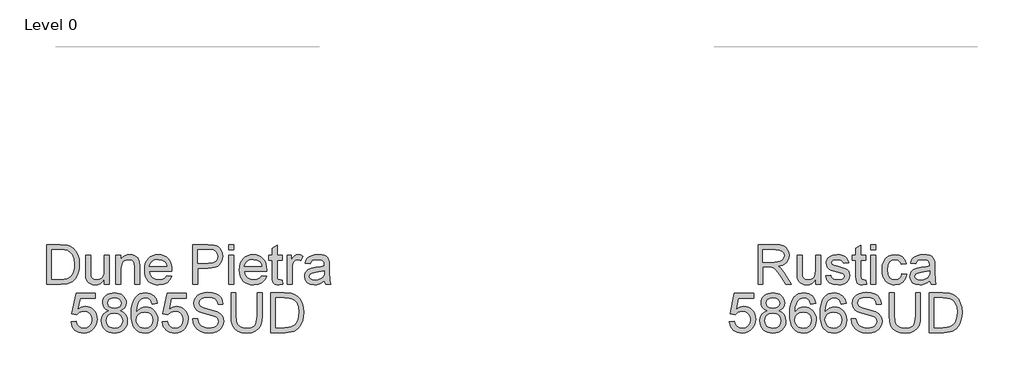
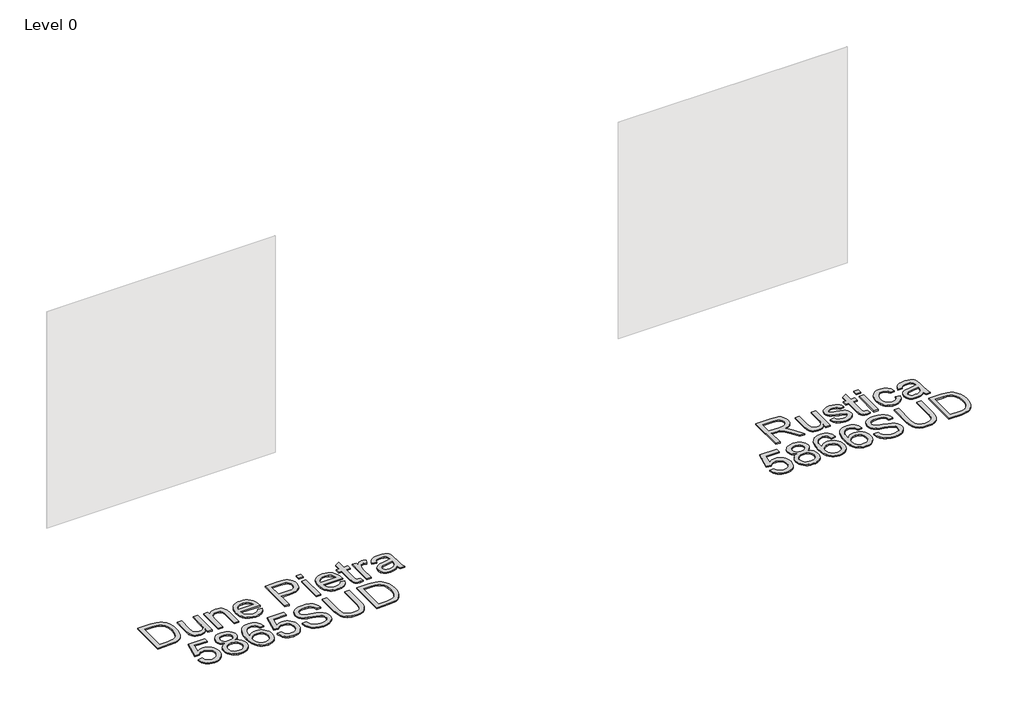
# One storey, part 21 of 29: 2 proxies.
"""IFC4 building model written with IfcOpenShell, lengths in millimetres."""

from ifc_helpers import new_model, si_unit, origin, origin_with_axes, place, context, project, spatial, polyline, outline, extrude, element, save

model = new_model("IFC4")

# Units and contexts
model_context = context("Model", 3, world=origin())
ifc_project = project(units=[si_unit("LENGTHUNIT", "METRE", prefix="MILLI")], contexts=[model_context])

# Site, building, storey
site = spatial("IfcSite", under=ifc_project)
building = spatial("IfcBuilding", under=site)
storey = spatial("IfcBuildingStorey", under=building, Name="Level 0", Elevation=0.0)

# Proxies
placement = place(None, origin())
element("IfcBuildingElementProxy", 1, Name="300mm Arial", ObjectType="300mm Arial", at=placement, inside=storey, context=model_context, shape_type="SweptSolid", body=[
    extrude(outline(polyline([(9883.034074, -7002.860494), (9883.034074, -6701.4915635), (10012.8964183, -6701.4915635), (10047.7992226, -6703.5241116), (10073.1922773, -6709.6217556), (10091.751924, -6720.8789447), (10106.1545041, -6738.3901276), (10115.3975392, -6760.1043624), (10118.4785509, -6783.9707069), (10113.3741883, -6813.6587839), (10098.0611002, -6838.2700893), (10086.461321, -6848.2994722), (10072.0794343, -6856.3147012), (10034.969338, -6866.3026974), (10056.3800702, -6882.4159288), (10086.9142758, -6921.1906911), (10137.1669563, -7002.860494), (10093.3889989, -7002.860494), (10054.1727782, -6940.3941312), (10025.8458646, -6899.0441949), (10005.9434486, -6879.509661), (9988.0275955, -6872.3359621), (9966.1754049, -6871.0115869), (9920.7051903, -6871.0115869), (9920.7051903, -7002.860494), (9883.034074, -7002.860494)]), holes=[polyline([(9920.7051903, -6833.3404706), (10005.0237436, -6833.3404706), (10029.239576, -6832.0068984), (10048.0291489, -6828.0061817), (10062.1742116, -6821.0716061), (10072.4565133, -6810.9364571), (10078.7197043, -6798.6767896), (10080.8074346, -6785.3686584), (10076.825112, -6766.9929528), (10064.8781442, -6752.1857025), (10044.3227378, -6742.4184355), (10014.5150991, -6739.1626798), (9920.7051903, -6739.1626798), (9920.7051903, -6833.3404706)])]), origin_with_axes(), (0.0, 0.0, 1.0), 10.0),
    extrude(outline(polyline([(10320.9608011, -7002.860494), (10320.9608011, -6964.8214957), (10307.3307732, -6983.5236966), (10291.4566651, -6996.8824116), (10273.3384768, -7004.8976405), (10252.9762084, -7007.5693835), (10234.6280939, -7005.6931853), (10217.5491722, -7000.0645908), (10203.2201685, -6991.6033049), (10193.1218078, -6981.2290327), (10181.9014069, -6953.4907302), (10179.6941149, -6918.4683643), (10179.6941149, -6781.5426857), (10217.3652312, -6781.5426857), (10217.3652312, -6900.7364521), (10219.6460996, -6939.1433324), (10225.1367384, -6951.9548229), (10234.5453204, -6961.6944987), (10247.2464463, -6967.8473251), (10262.6147167, -6969.8982672), (10278.8659038, -6967.8013398), (10294.0686272, -6961.5105577), (10306.6042062, -6951.605335), (10314.85396, -6938.6650858), (10319.4340908, -6920.9423707), (10320.9608011, -6896.6897502), (10320.9608011, -6781.5426857), (10358.6319174, -6781.5426857), (10358.6319174, -7002.860494), (10320.9608011, -7002.860494)])), origin_with_axes(), (0.0, 0.0, 1.0), 10.0),
    extrude(outline(polyline([(10396.3030337, -6936.9360404), (10433.97415, -6932.2271509), (10439.9154442, -6948.3403823), (10451.4117566, -6960.1861825), (10468.5366635, -6967.470246), (10491.3637413, -6969.8982672), (10513.9149076, -6967.6725811), (10529.7706215, -6960.9955229), (10539.1516124, -6951.3202265), (10542.2786094, -6940.0998256), (10539.1332183, -6930.4981055), (10529.6970452, -6923.1772538), (10490.9222829, -6912.4350996), (10434.1948792, -6894.0042116), (10419.8382843, -6884.7427824), (10409.4364209, -6872.4831149), (10403.1180477, -6858.0069584), (10401.0119232, -6842.0960621), (10402.7041804, -6827.5003439), (10407.7809519, -6814.0266659), (10415.7823853, -6802.2084568), (10426.2486281, -6792.5791455), (10450.197746, -6781.4323211), (10482.6081498, -6776.8337961), (10507.1274847, -6778.6824032), (10528.4462464, -6784.2282242), (10545.5895473, -6792.9286334), (10557.5825004, -6804.2410048), (10565.5287515, -6819.0022698), (10570.5319466, -6838.0493601), (10532.8608303, -6842.7582497), (10528.1059555, -6830.9032524), (10518.6973735, -6821.972917), (10504.5431137, -6816.3719136), (10485.5512057, -6814.5049125), (10463.9197444, -6816.2891401), (10449.4987702, -6821.6418232), (10441.3869722, -6829.3673451), (10438.6830395, -6838.2700893), (10443.1711999, -6849.2329728), (10457.2242921, -6857.5471059), (10489.6714841, -6865.5669334), (10544.964148, -6883.2988455), (10559.5690632, -6891.7785255), (10570.6423112, -6903.3852025), (10577.6228721, -6918.1556646), (10579.9497257, -6936.1267001), (10577.2182019, -6954.7047408), (10569.0236304, -6972.1791356), (10555.6787111, -6987.1795239), (10537.4961434, -6998.3355454), (10515.5335883, -7005.260924), (10490.8487065, -7007.5693835), (10452.8648905, -7003.1180114), (10425.1449821, -6989.763895), (10406.6405178, -6967.654187), (10396.3030337, -6936.9360404)])), origin_with_axes(), (0.0, 0.0, 1.0), 10.0),
    extrude(outline(polyline([(10702.3808537, -6971.4433716), (10707.0897432, -7003.96414), (10678.9099824, -7007.5693835), (10660.8285823, -7006.005885), (10647.3457072, -7001.3153896), (10637.8175635, -6994.0865084), (10631.6003578, -6984.9078526), (10628.1790553, -6969.1441091), (10627.0386211, -6942.1599648), (10627.0386211, -6819.213802), (10598.7852838, -6819.213802), (10598.7852838, -6781.5426857), (10627.0386211, -6781.5426857), (10627.0386211, -6727.758338), (10664.7097374, -6705.6118419), (10664.7097374, -6781.5426857), (10702.3808537, -6781.5426857), (10702.3808537, -6819.213802), (10664.7097374, -6819.213802), (10664.7097374, -6941.0563188), (10666.6963002, -6960.4804881), (10673.1342351, -6967.3598814), (10685.9733167, -6969.8982672), (10702.3808537, -6971.4433716)])), origin_with_axes(), (0.0, 0.0, 1.0), 10.0),
    extrude(outline(polyline([(10740.05197, -6739.1626798), (10740.05197, -6701.4915635), (10777.7230863, -6701.4915635), (10777.7230863, -6739.1626798), (10740.05197, -6739.1626798)])), origin_with_axes(), (0.0, 0.0, 1.0), 10.0),
    extrude(outline(polyline([(10740.05197, -7002.860494), (10740.05197, -6781.5426857), (10777.7230863, -6781.5426857), (10777.7230863, -7002.860494), (10740.05197, -7002.860494)])), origin_with_axes(), (0.0, 0.0, 1.0), 10.0),
    extrude(outline(polyline([(10975.4964469, -6922.8093718), (11013.1675632, -6927.5182614), (11002.6645322, -6961.0231141), (10982.9276632, -6986.3425924), (10955.8147602, -7002.2626857), (10923.1836272, -7007.5693835), (10902.0557044, -7005.7184772), (10883.1120809, -7000.1657584), (10866.3527567, -6990.9112269), (10851.7777319, -6977.9548829), (10839.9802162, -6961.5404481), (10831.5534192, -6941.9116444), (10826.4973411, -6919.0684718), (10824.8119817, -6893.0109302), (10827.6906583, -6859.4876834), (10836.3266881, -6830.4342028), (10850.8580269, -6806.9725286), (10871.4226305, -6790.2247008), (10896.0247389, -6780.1815223), (10922.6685924, -6776.8337961), (10954.499582, -6781.4323211), (10979.947819, -6795.2278959), (10998.2039631, -6817.4847566), (11008.4586737, -6847.4671392), (10970.7875574, -6852.1760288), (10963.9541493, -6835.7409006), (10953.3131626, -6823.9594797), (10939.4532084, -6816.8685543), (10922.962898, -6814.5049125), (10898.618307, -6819.1586197), (10879.2953052, -6833.1197414), (10866.6861498, -6857.1424357), (10862.483098, -6891.9808606), (10866.5941793, -6927.2883351), (10878.9274232, -6951.3938029), (10897.9009371, -6965.2721511), (10921.9328284, -6969.8982672), (10941.4397712, -6967.0103936), (10957.4334409, -6958.3467726), (10969.067709, -6943.6866751), (10975.4964469, -6922.8093718)])), origin_with_axes(), (0.0, 0.0, 1.0), 10.0),
    extrude(outline(polyline([(11187.3964761, -6974.6071568), (11169.3978495, -6990.0398064), (11150.865794, -7000.1381672), (11131.3772453, -7005.7115794), (11110.5091391, -7007.5693835), (11079.0276374, -7003.0996173), (11055.8050865, -6989.6903186), (11041.4852798, -6969.3280501), (11036.7120109, -6943.9993748), (11038.5146327, -6928.3827841), (11043.922498, -6914.2009331), (11052.2642222, -6902.0608273), (11062.8684208, -6892.5694718), (11089.2455598, -6880.2086368), (11121.8399046, -6874.5432541), (11160.3571495, -6868.5835657), (11187.1757469, -6861.5938078), (11187.3964761, -6853.2060983), (11184.8029081, -6836.3938912), (11177.0222039, -6825.3942195), (11159.6213855, -6817.2272392), (11135.377962, -6814.5049125), (11112.9371603, -6816.3167313), (11097.2653873, -6821.7521878), (11086.5784153, -6831.8045633), (11079.0920167, -6847.4671392), (11041.4209004, -6842.7582497), (11047.9600029, -6822.156858), (11057.7180728, -6805.9700502), (11071.6056181, -6793.590821), (11090.5331468, -6784.4121652), (11113.6821213, -6778.7283884), (11140.2340043, -6776.8337961), (11165.7006355, -6778.5076592), (11185.8881599, -6783.5292485), (11201.1092775, -6791.0800264), (11211.6766878, -6800.3414556), (11218.6848398, -6811.7917827), (11223.2281825, -6825.9092543), (11225.0675924, -6858.8714811), (11225.0675924, -6905.7396473), (11226.9805788, -6971.1858542), (11234.4853715, -7002.860494), (11196.8142552, -7002.860494), (11187.3964761, -6974.6071568)]), holes=[polyline([(11187.3964761, -6899.2649241), (11126.6223705, -6910.8164188), (11094.2119667, -6916.9232599), (11079.5334751, -6926.8560738), (11074.3831272, -6941.3506244), (11077.1882274, -6952.5526311), (11085.6035281, -6961.7312869), (11099.4450881, -6967.8565221), (11118.5289666, -6969.8982672), (11138.7624764, -6967.64499), (11156.6415413, -6960.8851583), (11171.1360919, -6950.9247533), (11181.2160586, -6939.069756), (11185.6858248, -6926.8560738), (11187.1757469, -6909.933502), (11187.3964761, -6899.2649241)])]), origin_with_axes(), (0.0, 0.0, 1.0), 10.0),
    extrude(outline(polyline([(9666.4251553, -7288.7338254), (9704.0962716, -7284.0249358), (9711.0124531, -7306.6404815), (9723.0789825, -7322.8364863), (9740.2406776, -7332.5761621), (9762.442356, -7335.8227207), (9789.4448945, -7331.3069693), (9809.6784042, -7317.7597148), (9822.3151507, -7296.7444558), (9826.5273996, -7269.8246908), (9822.5818652, -7244.4776213), (9810.745262, -7225.0902402), (9790.9256195, -7212.7845875), (9763.0309672, -7208.6827032), (9744.7564291, -7210.3197781), (9729.9583758, -7215.2310027), (9708.8051611, -7232.2271509), (9671.1340448, -7227.5182614), (9704.0962716, -7072.1249066), (9850.0718473, -7072.1249066), (9850.0718473, -7109.7960229), (9734.5569008, -7109.7960229), (9718.4436694, -7192.790201), (9745.3542373, -7176.4562404), (9773.5523923, -7171.0115869), (9791.8982075, -7172.6992456), (9808.7495022, -7177.7622215), (9824.1062762, -7186.2005148), (9837.9685296, -7198.0141254), (9849.4441486, -7212.4810848), (9857.6410193, -7228.8794248), (9862.5591417, -7247.2091452), (9864.1985159, -7267.470246), (9858.2940099, -7305.1413624), (9850.9133773, -7321.9351754), (9840.5804918, -7337.3678251), (9824.9271129, -7353.1729553), (9806.6617718, -7364.4623341), (9785.7844686, -7371.2359613), (9762.2952032, -7373.4938371), (9725.2954715, -7367.6904986), (9709.6168008, -7360.4363255), (9695.8189267, -7350.2804832), (9684.3387092, -7337.7288093), (9675.6130081, -7323.2871418), (9666.4251553, -7288.7338254)])), origin_with_axes(), (0.0, 0.0, 1.0), 10.0),
    extrude(outline(polyline([(9952.0487363, -7202.7965913), (9931.8796059, -7192.8637774), (9917.7253462, -7179.3992964), (9909.3652278, -7162.6790597), (9906.5785217, -7142.9789789), (9908.0960349, -7127.6153071), (9912.6485746, -7113.5300252), (9920.2361408, -7100.7231332), (9930.8587334, -7089.1946312), (9944.0059162, -7079.6664875), (9959.1672529, -7072.8606706), (9995.5323882, -7067.4160171), (10032.1182526, -7072.9894293), (10047.4451362, -7079.9561946), (10060.7946541, -7089.709666), (10071.6103848, -7101.4634957), (10079.3359067, -7114.4313361), (10083.9712198, -7128.613187), (10085.5163242, -7144.0090485), (10082.7664063, -7163.0745329), (10074.5166525, -7179.509661), (10060.6750924, -7192.8913686), (10041.1497556, -7202.7965913), (10064.3355183, -7214.7435591), (10081.2121048, -7232.3375155), (10091.5036036, -7254.732332), (10094.9341033, -7281.0818799), (10093.232649, -7299.8714528), (10088.1282863, -7317.0975272), (10079.6210152, -7332.7601031), (10067.7108356, -7346.8591806), (10053.0231469, -7358.5118428), (10036.1833486, -7366.8351729), (10017.1914406, -7371.829171), (9996.0474229, -7373.4938371), (9974.9034053, -7371.8222732), (9955.9114973, -7366.8075818), (9939.0716989, -7358.4497627), (9924.3840103, -7346.748816), (9912.4738307, -7332.5508703), (9903.9665596, -7316.7020541), (9898.8621969, -7299.2023674), (9897.1607426, -7280.0518103), (9900.729198, -7252.6813898), (9911.4345641, -7230.1670117), (9928.7250178, -7213.2812282), (9952.0487363, -7202.7965913)]), holes=[polyline([(9944.249638, -7144.0826249), (9947.5881671, -7160.52695), (9957.6037545, -7173.6603373), (9974.0020944, -7182.268776), (9996.4888813, -7185.1382555), (10018.4514365, -7182.2871701), (10034.601456, -7173.7339137), (10044.5342699, -7161.0419848), (10047.8452079, -7145.774882), (10044.4239053, -7129.9283651), (10034.1599976, -7116.822569), (10017.7892489, -7108.0209923), (9996.0474229, -7105.0871334), (9974.1676413, -7107.9566129), (9957.8244836, -7116.5650516), (9947.6433494, -7129.1834041), (9944.249638, -7144.0826249)]), polyline([(9934.8318589, -7278.7274351), (9941.1226411, -7307.0911369), (9949.8322473, -7319.2588339), (9963.3795018, -7328.317928), (9979.6030978, -7333.9465226), (9996.3417285, -7335.8227207), (10021.9831036, -7331.8771864), (10041.223332, -7320.0405832), (10053.2530732, -7302.1155329), (10057.2629869, -7279.9046575), (10053.1243145, -7257.316703), (10040.7082972, -7238.9961796), (10021.0266104, -7226.8560738), (9995.0909298, -7222.8093718), (9969.8082396, -7226.8008915), (9950.7611493, -7238.7754504), (9938.8141815, -7256.7464859), (9934.8318589, -7278.7274351)])]), origin_with_axes(), (0.0, 0.0, 1.0), 10.0),
    extrude(outline(polyline([(10320.9608011, -7147.4671392), (10283.2896848, -7152.1760288), (10277.2196319, -7133.5060175), (10269.0158634, -7120.7589064), (10251.9277447, -7109.0050766), (10231.2711707, -7105.0871334), (10213.7599877, -7107.3680017), (10197.2788743, -7114.2106069), (10183.1246145, -7128.622384), (10171.5639228, -7148.4604206), (10163.7556275, -7176.5206198), (10160.8585568, -7215.5988847), (10175.9693097, -7197.9681401), (10194.078301, -7185.5429257), (10214.1738549, -7178.1760888), (10235.2442962, -7175.7204764), (10253.3440904, -7177.3989381), (10270.045933, -7182.4343229), (10285.349824, -7190.8266309), (10299.2557634, -7202.5758621), (10310.8118565, -7216.9830407), (10319.0662088, -7233.349191), (10324.0188202, -7251.6743129), (10325.6696906, -7271.9584064), (10322.5610878, -7298.9333537), (10313.2352792, -7323.9401323), (10298.4648171, -7345.1485293), (10279.0222536, -7360.7283318), (10255.7905056, -7370.3024607), (10229.6524899, -7373.4938371), (10207.1955933, -7371.3785156), (10186.9137991, -7365.0325512), (10168.8071071, -7354.4559438), (10152.8755175, -7339.6486935), (10139.8869838, -7319.9854009), (10130.6094597, -7294.8406665), (10125.0429453, -7264.2144904), (10123.1874405, -7228.1068726), (10125.2475797, -7187.6260575), (10131.4279972, -7153.0773396), (10141.728693, -7124.4607189), (10156.1496672, -7101.7761954), (10171.7800535, -7086.7436174), (10189.9028403, -7076.0060617), (10210.5180276, -7069.5635282), (10233.6256154, -7067.4160171), (10266.6798127, -7072.7319119), (10293.1489223, -7088.6795964), (10311.6901748, -7114.0082718), (10320.9608011, -7147.4671392)]), holes=[polyline([(10160.8585568, -7271.3697952), (10163.0382576, -7288.0624407), (10169.5773601, -7304.0009282), (10179.7309031, -7317.7045325), (10192.7539258, -7327.6925287), (10208.471684, -7333.7901727), (10226.7094339, -7335.8227207), (10251.5690597, -7331.6104719), (10271.1127907, -7318.9737254), (10283.7771284, -7299.1080976), (10287.9985743, -7273.2092052), (10283.8323107, -7248.3495793), (10271.3335199, -7229.3944595), (10251.4586951, -7217.3923095), (10225.1643295, -7213.3915928), (10200.3414919, -7217.3923095), (10179.5837503, -7229.3944595), (10165.5398552, -7247.8897269), (10160.8585568, -7271.3697952)])]), origin_with_axes(), (0.0, 0.0, 1.0), 10.0),
    extrude(outline(polyline([(10551.6963885, -7147.4671392), (10514.0252722, -7152.1760288), (10507.9552192, -7133.5060175), (10499.7514507, -7120.7589064), (10482.6633321, -7109.0050766), (10462.006758, -7105.0871334), (10444.4955751, -7107.3680017), (10428.0144617, -7114.2106069), (10413.8602019, -7128.622384), (10402.2995102, -7148.4604206), (10394.4912149, -7176.5206198), (10391.5941442, -7215.5988847), (10406.7048971, -7197.9681401), (10424.8138883, -7185.5429257), (10444.9094423, -7178.1760888), (10465.9798836, -7175.7204764), (10484.0796777, -7177.3989381), (10500.7815203, -7182.4343229), (10516.0854113, -7190.8266309), (10529.9913507, -7202.5758621), (10541.5474439, -7216.9830407), (10549.8017962, -7233.349191), (10554.7544075, -7251.6743129), (10556.405278, -7271.9584064), (10553.2966751, -7298.9333537), (10543.9708666, -7323.9401323), (10529.2004045, -7345.1485293), (10509.757841, -7360.7283318), (10486.526093, -7370.3024607), (10460.3880773, -7373.4938371), (10437.9311807, -7371.3785156), (10417.6493865, -7365.0325512), (10399.5426945, -7354.4559438), (10383.6111049, -7339.6486935), (10370.6225712, -7319.9854009), (10361.3450471, -7294.8406665), (10355.7785327, -7264.2144904), (10353.9230279, -7228.1068726), (10355.983167, -7187.6260575), (10362.1635845, -7153.0773396), (10372.4642804, -7124.4607189), (10386.8852546, -7101.7761954), (10402.5156409, -7086.7436174), (10420.6384277, -7076.0060617), (10441.253615, -7069.5635282), (10464.3612028, -7067.4160171), (10497.4154001, -7072.7319119), (10523.8845096, -7088.6795964), (10542.4257622, -7114.0082718), (10551.6963885, -7147.4671392)]), holes=[polyline([(10391.5941442, -7271.3697952), (10393.773845, -7288.0624407), (10400.3129474, -7304.0009282), (10410.4664905, -7317.7045325), (10423.4895131, -7327.6925287), (10439.2072714, -7333.7901727), (10457.4450213, -7335.8227207), (10482.3046471, -7331.6104719), (10501.8483781, -7318.9737254), (10514.5127158, -7299.1080976), (10518.7341617, -7273.2092052), (10514.5678981, -7248.3495793), (10502.0691073, -7229.3944595), (10482.1942825, -7217.3923095), (10455.8999169, -7213.3915928), (10431.0770793, -7217.3923095), (10410.3193377, -7229.3944595), (10396.2754425, -7247.8897269), (10391.5941442, -7271.3697952)])]), origin_with_axes(), (0.0, 0.0, 1.0), 10.0),
    extrude(outline(polyline([(10589.3675048, -7265.1893777), (10627.0386211, -7265.1893777), (10631.3612345, -7286.0942721), (10639.1787269, -7302.8972822), (10651.3740151, -7316.2330045), (10668.8300157, -7326.7360355), (10690.1671714, -7333.5510494), (10714.0059247, -7335.8227207), (10734.9935926, -7334.1028724), (10753.3692982, -7328.9433274), (10768.259322, -7320.7763471), (10778.7899441, -7310.0341929), (10785.0531351, -7297.700949), (10787.1408654, -7284.7606998), (10785.5773669, -7272.1515444), (10780.8868715, -7261.2530403), (10771.3587278, -7251.9548229), (10755.2822846, -7244.1465276), (10700.4310791, -7229.7623415), (10664.4246288, -7220.2433949), (10641.3860189, -7211.1843008), (10622.6332342, -7198.510766), (10609.3434971, -7183.1516928), (10601.4248372, -7165.4381747), (10598.7852838, -7145.7013056), (10602.0502366, -7123.637583), (10611.8450947, -7103.0637824), (10627.9123408, -7085.6261758), (10649.9944576, -7072.9710352), (10676.5003553, -7065.2731044), (10705.8389444, -7062.7071275), (10737.6239488, -7065.3926661), (10765.4358277, -7073.4492818), (10788.2812996, -7086.7114277), (10805.1670831, -7105.013557), (10815.8540551, -7127.2152354), (10820.1030921, -7152.1760288), (10782.4319758, -7152.1760288), (10775.5157943, -7129.6984389), (10761.0948201, -7113.4748429), (10738.5620479, -7103.6523936), (10707.3104724, -7100.3782438), (10675.3231329, -7103.6156054), (10653.3789719, -7113.3276901), (10640.6870431, -7127.6199056), (10636.4564002, -7144.5976597), (10639.4546384, -7159.0738162), (10648.4493532, -7170.7172813), (10669.7129325, -7181.1283418), (10709.9592228, -7191.7601314), (10751.4931, -7201.8584922), (10776.6194403, -7210.669266), (10798.0945518, -7224.3360821), (10813.076546, -7241.2034716), (10821.8781228, -7261.0874934), (10824.8119817, -7283.8042066), (10821.4366644, -7307.0267576), (10811.3107125, -7328.869751), (10794.8479932, -7347.668521), (10772.4623738, -7361.7584014), (10745.5426088, -7370.5599781), (10715.4774527, -7373.4938371), (10678.5696915, -7370.3300519), (10648.1918358, -7360.8386964), (10623.9943976, -7344.9829824), (10605.627889, -7322.7261217), (10593.837271, -7295.6132187), (10589.3675048, -7265.1893777)])), origin_with_axes(), (0.0, 0.0, 1.0), 10.0),
    extrude(outline(polyline([(11079.0920167, -7067.4160171), (11116.7631331, -7067.4160171), (11116.7631331, -7241.277048), (11114.2063532, -7281.9923878), (11106.5360136, -7313.3451308), (11092.2070099, -7337.533372), (11069.6742377, -7356.7552063), (11038.8825147, -7369.3091794), (10999.7766586, -7373.4938371), (10961.5261281, -7369.8518053), (10930.9459373, -7358.92571), (10908.026889, -7341.0926303), (10892.7597862, -7316.7296452), (10884.1789387, -7284.052527), (10881.3186561, -7241.277048), (10881.3186561, -7067.4160171), (10918.9897724, -7067.4160171), (10918.9897724, -7239.9526728), (10920.8475765, -7273.8070134), (10926.4209887, -7297.3790523), (10936.5193495, -7313.7038158), (10951.9519992, -7325.8163305), (10972.0751444, -7333.3211232), (10996.2449914, -7335.8227207), (11034.5599012, -7330.8747079), (11048.9027005, -7324.6896919), (11060.0357294, -7316.0306694), (11068.3728551, -7303.8537754), (11074.3279449, -7287.1151446), (11079.0920167, -7239.9526728), (11079.0920167, -7067.4160171)])), origin_with_axes(), (0.0, 0.0, 1.0), 10.0),
    extrude(outline(polyline([(11182.6875866, -7368.7849475), (11182.6875866, -7067.4160171), (11286.6510384, -7067.4160171), (11340.4353861, -7071.7570246), (11364.4580804, -7080.12634), (11384.7283783, -7093.3149095), (11405.5688934, -7116.270746), (11420.4129319, -7144.8183889), (11429.2972821, -7178.406015), (11432.2587321, -7216.4818015), (11430.2537752, -7248.8278259), (11424.2389046, -7277.2926953), (11415.0786429, -7301.5269217), (11403.6375129, -7321.1810173), (11390.4673375, -7336.6964405), (11376.1199397, -7348.5146496), (11359.6480233, -7357.2794381), (11340.1042923, -7363.6345996), (11291.6542336, -7368.7849475), (11182.6875866, -7368.7849475)]), holes=[polyline([(11220.3587029, -7331.1138312), (11287.0189204, -7331.1138312), (11314.591676, -7329.7526678), (11335.5057674, -7325.6691777), (11351.287905, -7319.1024841), (11363.464799, -7310.2917103), (11376.552201, -7293.9853408), (11386.3838473, -7272.8781114), (11392.5366737, -7246.8780514), (11394.5876158, -7215.8931903), (11390.568505, -7174.8375597), (11378.5111726, -7144.5240833), (11360.696487, -7123.7019623), (11339.4053165, -7111.1203981), (11317.737067, -7106.5954496), (11285.9888508, -7105.0871334), (11220.3587029, -7105.0871334), (11220.3587029, -7331.1138312)])]), origin_with_axes(), (0.0, 0.0, 1.0), 10.0),
])
element("IfcBuildingElementProxy", 2, Name="300mm Arial", ObjectType="300mm Arial", at=placement, inside=storey, context=model_context, shape_type="SweptSolid", body=[
    extrude(outline(polyline([(4480.4240185, -7002.860494), (4480.4240185, -6701.4915635), (4584.3874703, -6701.4915635), (4638.171818, -6705.8325711), (4662.1945123, -6714.2018865), (4682.4648103, -6727.390456), (4703.3053253, -6750.3462925), (4718.1493638, -6778.8939353), (4727.033714, -6812.4815615), (4729.995164, -6850.557348), (4727.9902072, -6882.9033724), (4721.9753365, -6911.3682418), (4712.8150749, -6935.6024682), (4701.3739448, -6955.2565638), (4688.2037694, -6970.771987), (4673.8563716, -6982.590196), (4657.3844552, -6991.3549846), (4637.8407242, -6997.710146), (4589.3906655, -7002.860494), (4480.4240185, -7002.860494)]), holes=[polyline([(4518.0951348, -6965.1893777), (4584.7553523, -6965.1893777), (4612.3281079, -6963.8282143), (4633.2421993, -6959.7447241), (4649.0243369, -6953.1780305), (4661.2012309, -6944.3672567), (4674.2886329, -6928.0608873), (4684.1202792, -6906.9536578), (4690.2731056, -6880.9535978), (4692.3240477, -6849.9687368), (4688.3049369, -6808.9131061), (4676.2476045, -6778.5996297), (4658.4329189, -6757.7775088), (4637.1417485, -6745.1959446), (4615.4734989, -6740.670996), (4583.7252828, -6739.1626798), (4518.0951348, -6739.1626798), (4518.0951348, -6965.1893777)])]), origin_with_axes(), (0.0, 0.0, 1.0), 10.0),
    extrude(outline(polyline([(4918.3507456, -7002.860494), (4918.3507456, -6964.8214957), (4904.7207176, -6983.5236966), (4888.8466096, -6996.8824116), (4870.7284213, -7004.8976405), (4850.3661529, -7007.5693835), (4832.0180383, -7005.6931853), (4814.9391167, -7000.0645908), (4800.610113, -6991.6033049), (4790.5117522, -6981.2290327), (4779.2913514, -6953.4907302), (4777.0840594, -6918.4683643), (4777.0840594, -6781.5426857), (4814.7551757, -6781.5426857), (4814.7551757, -6900.7364521), (4817.0360441, -6939.1433324), (4822.5266829, -6951.9548229), (4831.9352649, -6961.6944987), (4844.6363908, -6967.8473251), (4860.0046611, -6969.8982672), (4876.2558483, -6967.8013398), (4891.4585717, -6961.5105577), (4903.9941507, -6951.605335), (4912.2439044, -6938.6650858), (4916.8240353, -6920.9423707), (4918.3507456, -6896.6897502), (4918.3507456, -6781.5426857), (4956.0218619, -6781.5426857), (4956.0218619, -7002.860494), (4918.3507456, -7002.860494)])), origin_with_axes(), (0.0, 0.0, 1.0), 10.0),
    extrude(outline(polyline([(5007.8196468, -7002.860494), (5007.8196468, -6781.5426857), (5045.4907631, -6781.5426857), (5045.4907631, -6812.4447733), (5058.5781651, -6796.8649708), (5074.2959233, -6785.7365404), (5092.6440378, -6779.0594822), (5113.6225086, -6776.8337961), (5132.1913523, -6778.6272209), (5149.1966975, -6784.0074951), (5163.3785485, -6792.303234), (5173.4769092, -6802.8430532), (5184.7708865, -6830.5445674), (5186.7574492, -6866.964885), (5186.7574492, -7002.860494), (5149.0863329, -7002.860494), (5149.0863329, -6872.0416565), (5144.7453254, -6838.7115477), (5138.7396518, -6828.7879309), (5129.4046462, -6821.0900002), (5117.4392843, -6816.1511844), (5103.5425419, -6814.5049125), (5081.4788193, -6818.2021265), (5062.6708523, -6829.2937687), (5055.1545633, -6838.3482643), (5049.7857854, -6850.7228949), (5045.4907631, -6885.4325611), (5045.4907631, -7002.860494), (5007.8196468, -7002.860494)])), origin_with_axes(), (0.0, 0.0, 1.0), 10.0),
    extrude(outline(polyline([(5393.5071305, -6936.9360404), (5430.4424829, -6941.64493), (5417.1343517, -6969.4752029), (5395.8983635, -6990.2789297), (5367.2127649, -7003.2467701), (5331.5558025, -7007.5693835), (5308.1815003, -7005.7046817), (5287.3547808, -7000.1105761), (5269.0756442, -6990.7870668), (5253.3440904, -6977.7341537), (5240.6935483, -6961.3151204), (5231.6574468, -6941.8932503), (5226.2357859, -6919.4685435), (5224.4285656, -6894.0409998), (5226.25418, -6867.7512327), (5231.7310232, -6844.5792656), (5240.8590952, -6824.5250983), (5253.638396, -6807.5887309), (5269.3285631, -6794.133447), (5287.1892339, -6784.5225298), (5307.2204086, -6778.7559796), (5329.422087, -6776.8337961), (5350.9086948, -6778.751381), (5370.3397619, -6784.5041357), (5387.7152884, -6794.0920602), (5403.0352742, -6807.5151545), (5415.5409628, -6824.4147337), (5424.4735975, -6844.4321128), (5429.8331783, -6867.5672917), (5431.6197052, -6893.8202706), (5431.398976, -6903.9738137), (5262.0996819, -6903.9738137), (5268.6203902, -6932.1719686), (5283.7679314, -6952.902119), (5305.6293189, -6965.6492302), (5332.2915665, -6969.8982672), (5352.3411353, -6967.9300985), (5369.2269189, -6962.0255925), (5382.9489173, -6951.8168672), (5393.5071305, -6936.9360404)]), holes=[polyline([(5262.0996819, -6866.3026974), (5393.9485889, -6866.3026974), (5388.8534233, -6846.4002814), (5378.8654271, -6832.1632482), (5356.902872, -6818.9194964), (5329.2749342, -6814.5049125), (5303.8818795, -6818.0273826), (5282.8850146, -6828.5947929), (5268.2892964, -6845.0667092), (5262.0996819, -6866.3026974)])]), origin_with_axes(), (0.0, 0.0, 1.0), 10.0),
    extrude(outline(polyline([(5591.7219495, -7002.860494), (5591.7219495, -6701.4915635), (5703.4109233, -6701.4915635), (5748.4396795, -6704.3610431), (5768.5168394, -6709.7229232), (5785.043938, -6718.4509235), (5798.3520692, -6730.9405172), (5808.7723267, -6747.5871775), (5815.5045672, -6767.222879), (5817.7486474, -6788.6795964), (5816.2334334, -6807.1794622), (5811.6877915, -6824.198603), (5804.1117217, -6839.7370188), (5793.5052239, -6853.7947095), (5778.9439947, -6865.4473717), (5759.5037305, -6873.7707019), (5735.1844313, -6878.7647), (5705.9860972, -6880.429366), (5629.3930658, -6880.429366), (5629.3930658, -7002.860494), (5591.7219495, -7002.860494)]), holes=[polyline([(5629.3930658, -6842.7582497), (5708.1933892, -6842.7582497), (5741.5970744, -6839.3001589), (5763.6699941, -6828.9258867), (5775.9756468, -6812.2792264), (5780.0775311, -6790.0039716), (5777.6587069, -6773.0813998), (5770.4022346, -6758.8075784), (5759.2094249, -6748.0654241), (5744.9815887, -6741.7378538), (5707.3104724, -6739.1626798), (5629.3930658, -6739.1626798), (5629.3930658, -6842.7582497)])]), origin_with_axes(), (0.0, 0.0, 1.0), 10.0),
    extrude(outline(polyline([(5864.8375428, -6739.1626798), (5864.8375428, -6701.4915635), (5902.5086591, -6701.4915635), (5902.5086591, -6739.1626798), (5864.8375428, -6739.1626798)])), origin_with_axes(), (0.0, 0.0, 1.0), 10.0),
    extrude(outline(polyline([(5864.8375428, -7002.860494), (5864.8375428, -6781.5426857), (5902.5086591, -6781.5426857), (5902.5086591, -7002.860494), (5864.8375428, -7002.860494)])), origin_with_axes(), (0.0, 0.0, 1.0), 10.0),
    extrude(outline(polyline([(6113.9672299, -6936.9360404), (6150.9025822, -6941.64493), (6137.594451, -6969.4752029), (6116.3584629, -6990.2789297), (6087.6728643, -7003.2467701), (6052.0159019, -7007.5693835), (6028.6415996, -7005.7046817), (6007.8148802, -7000.1105761), (5989.5357435, -6990.7870668), (5973.8041897, -6977.7341537), (5961.1536476, -6961.3151204), (5952.1175461, -6941.8932503), (5946.6958852, -6919.4685435), (5944.8886649, -6894.0409998), (5946.7142793, -6867.7512327), (5952.1911225, -6844.5792656), (5961.3191945, -6824.5250983), (5974.0984953, -6807.5887309), (5989.7886624, -6794.133447), (6007.6493333, -6784.5225298), (6027.6805079, -6778.7559796), (6049.8821863, -6776.8337961), (6071.3687941, -6778.751381), (6090.7998612, -6784.5041357), (6108.1753877, -6794.0920602), (6123.4953736, -6807.5151545), (6136.0010621, -6824.4147337), (6144.9336968, -6844.4321128), (6150.2932777, -6867.5672917), (6152.0798046, -6893.8202706), (6151.8590754, -6903.9738137), (5982.5597812, -6903.9738137), (5989.0804896, -6932.1719686), (6004.2280307, -6952.902119), (6026.0894183, -6965.6492302), (6052.7516659, -6969.8982672), (6072.8012346, -6967.9300985), (6089.6870182, -6962.0255925), (6103.4090166, -6951.8168672), (6113.9672299, -6936.9360404)]), holes=[polyline([(5982.5597812, -6866.3026974), (6114.4086883, -6866.3026974), (6109.3135227, -6846.4002814), (6099.3255265, -6832.1632482), (6077.3629714, -6818.9194964), (6049.7350335, -6814.5049125), (6024.3419788, -6818.0273826), (6003.3451139, -6828.5947929), (5988.7493958, -6845.0667092), (5982.5597812, -6866.3026974)])]), origin_with_axes(), (0.0, 0.0, 1.0), 10.0),
    extrude(outline(polyline([(6269.802043, -6971.4433716), (6274.5109326, -7003.96414), (6246.3311718, -7007.5693835), (6228.2497717, -7006.005885), (6214.7668966, -7001.3153896), (6205.2387529, -6994.0865084), (6199.0215472, -6984.9078526), (6195.6002446, -6969.1441091), (6194.4598104, -6942.1599648), (6194.4598104, -6819.213802), (6166.2064732, -6819.213802), (6166.2064732, -6781.5426857), (6194.4598104, -6781.5426857), (6194.4598104, -6727.758338), (6232.1309267, -6705.6118419), (6232.1309267, -6781.5426857), (6269.802043, -6781.5426857), (6269.802043, -6819.213802), (6232.1309267, -6819.213802), (6232.1309267, -6941.0563188), (6234.1174895, -6960.4804881), (6240.5554244, -6967.3598814), (6253.3945061, -6969.8982672), (6269.802043, -6971.4433716)])), origin_with_axes(), (0.0, 0.0, 1.0), 10.0),
    extrude(outline(polyline([(6307.4731594, -7002.860494), (6307.4731594, -6781.5426857), (6340.4353861, -6781.5426857), (6340.4353861, -6814.2841833), (6352.6122802, -6795.3014723), (6363.832681, -6784.1178596), (6375.0898701, -6778.654812), (6387.3771287, -6776.8337961), (6406.1391105, -6779.7400639), (6425.1953978, -6788.4588672), (6412.6138336, -6822.2304343), (6399.3700817, -6816.4362929), (6386.1263299, -6814.5049125), (6374.8783379, -6816.3627165), (6364.8259624, -6821.9361288), (6356.7049674, -6830.8020848), (6351.2511168, -6842.5375205), (6346.6709859, -6863.5803706), (6345.1442757, -6886.5362071), (6345.1442757, -7002.860494), (6307.4731594, -7002.860494)])), origin_with_axes(), (0.0, 0.0, 1.0), 10.0),
    extrude(outline(polyline([(6590.0065316, -6974.6071568), (6572.007905, -6990.0398064), (6553.4758495, -7000.1381672), (6533.9873008, -7005.7115794), (6513.1191947, -7007.5693835), (6481.6376929, -7003.0996173), (6458.415142, -6989.6903186), (6444.0953353, -6969.3280501), (6439.3220664, -6943.9993748), (6441.1246882, -6928.3827841), (6446.5325535, -6914.2009331), (6454.8742778, -6902.0608273), (6465.4784763, -6892.5694718), (6491.8556153, -6880.2086368), (6524.4499601, -6874.5432541), (6562.967205, -6868.5835657), (6589.7858025, -6861.5938078), (6590.0065316, -6853.2060983), (6587.4129636, -6836.3938912), (6579.6322594, -6825.3942195), (6562.231441, -6817.2272392), (6537.9880175, -6814.5049125), (6515.5472158, -6816.3167313), (6499.8754428, -6821.7521878), (6489.1884709, -6831.8045633), (6481.7020723, -6847.4671392), (6444.030956, -6842.7582497), (6450.5700584, -6822.156858), (6460.3281283, -6805.9700502), (6474.2156737, -6793.590821), (6493.1432023, -6784.4121652), (6516.2921769, -6778.7283884), (6542.8440599, -6776.8337961), (6568.310691, -6778.5076592), (6588.4982155, -6783.5292485), (6603.719333, -6791.0800264), (6614.2867433, -6800.3414556), (6621.2948953, -6811.7917827), (6625.838238, -6825.9092543), (6627.677648, -6858.8714811), (6627.677648, -6905.7396473), (6629.5906343, -6971.1858542), (6637.095427, -7002.860494), (6599.4243107, -7002.860494), (6590.0065316, -6974.6071568)]), holes=[polyline([(6590.0065316, -6899.2649241), (6529.232426, -6910.8164188), (6496.8220223, -6916.9232599), (6482.1435307, -6926.8560738), (6476.9931827, -6941.3506244), (6479.7982829, -6952.5526311), (6488.2135836, -6961.7312869), (6502.0551437, -6967.8565221), (6521.1390222, -6969.8982672), (6541.3725319, -6967.64499), (6559.2515969, -6960.8851583), (6573.7461475, -6950.9247533), (6583.8261141, -6939.069756), (6588.2958804, -6926.8560738), (6589.7858025, -6909.933502), (6590.0065316, -6899.2649241)])]), origin_with_axes(), (0.0, 0.0, 1.0), 10.0),
    extrude(outline(polyline([(4666.4251553, -7288.7338254), (4704.0962716, -7284.0249358), (4711.0124531, -7306.6404815), (4723.0789825, -7322.8364863), (4740.2406776, -7332.5761621), (4762.442356, -7335.8227207), (4789.4448945, -7331.3069693), (4809.6784042, -7317.7597148), (4822.3151507, -7296.7444558), (4826.5273996, -7269.8246908), (4822.5818652, -7244.4776213), (4810.745262, -7225.0902402), (4790.9256195, -7212.7845875), (4763.0309672, -7208.6827032), (4744.7564291, -7210.3197781), (4729.9583758, -7215.2310027), (4708.8051611, -7232.2271509), (4671.1340448, -7227.5182614), (4704.0962716, -7072.1249066), (4850.0718473, -7072.1249066), (4850.0718473, -7109.7960229), (4734.5569008, -7109.7960229), (4718.4436694, -7192.790201), (4745.3542373, -7176.4562404), (4773.5523923, -7171.0115869), (4791.8982075, -7172.6992456), (4808.7495022, -7177.7622215), (4824.1062762, -7186.2005148), (4837.9685296, -7198.0141254), (4849.4441486, -7212.4810848), (4857.6410193, -7228.8794248), (4862.5591417, -7247.2091452), (4864.1985159, -7267.470246), (4858.2940099, -7305.1413624), (4850.9133773, -7321.9351754), (4840.5804918, -7337.3678251), (4824.9271129, -7353.1729553), (4806.6617718, -7364.4623341), (4785.7844686, -7371.2359613), (4762.2952032, -7373.4938371), (4725.2954715, -7367.6904986), (4709.6168008, -7360.4363255), (4695.8189267, -7350.2804832), (4684.3387092, -7337.7288093), (4675.6130081, -7323.2871418), (4666.4251553, -7288.7338254)])), origin_with_axes(), (0.0, 0.0, 1.0), 10.0),
    extrude(outline(polyline([(4952.0487363, -7202.7965913), (4931.8796059, -7192.8637774), (4917.7253462, -7179.3992964), (4909.3652278, -7162.6790597), (4906.5785217, -7142.9789789), (4908.0960349, -7127.6153071), (4912.6485746, -7113.5300252), (4920.2361408, -7100.7231332), (4930.8587334, -7089.1946312), (4944.0059162, -7079.6664875), (4959.1672529, -7072.8606706), (4995.5323882, -7067.4160171), (5032.1182526, -7072.9894293), (5047.4451362, -7079.9561946), (5060.7946541, -7089.709666), (5071.6103848, -7101.4634957), (5079.3359067, -7114.4313361), (5083.9712198, -7128.613187), (5085.5163242, -7144.0090485), (5082.7664063, -7163.0745329), (5074.5166525, -7179.509661), (5060.6750924, -7192.8913686), (5041.1497556, -7202.7965913), (5064.3355183, -7214.7435591), (5081.2121048, -7232.3375155), (5091.5036036, -7254.732332), (5094.9341033, -7281.0818799), (5093.232649, -7299.8714528), (5088.1282863, -7317.0975272), (5079.6210152, -7332.7601031), (5067.7108356, -7346.8591806), (5053.0231469, -7358.5118428), (5036.1833486, -7366.8351729), (5017.1914406, -7371.829171), (4996.0474229, -7373.4938371), (4974.9034053, -7371.8222732), (4955.9114973, -7366.8075818), (4939.0716989, -7358.4497627), (4924.3840103, -7346.748816), (4912.4738307, -7332.5508703), (4903.9665596, -7316.7020541), (4898.8621969, -7299.2023674), (4897.1607426, -7280.0518103), (4900.729198, -7252.6813898), (4911.4345641, -7230.1670117), (4928.7250178, -7213.2812282), (4952.0487363, -7202.7965913)]), holes=[polyline([(4934.8318589, -7278.7274351), (4941.1226411, -7307.0911369), (4949.8322473, -7319.2588339), (4963.3795018, -7328.317928), (4979.6030978, -7333.9465226), (4996.3417285, -7335.8227207), (5021.9831036, -7331.8771864), (5041.223332, -7320.0405832), (5053.2530732, -7302.1155329), (5057.2629869, -7279.9046575), (5053.1243145, -7257.316703), (5040.7082972, -7238.9961796), (5021.0266104, -7226.8560738), (4995.0909298, -7222.8093718), (4969.8082396, -7226.8008915), (4950.7611493, -7238.7754504), (4938.8141815, -7256.7464859), (4934.8318589, -7278.7274351)]), polyline([(4944.249638, -7144.0826249), (4947.5881671, -7160.52695), (4957.6037545, -7173.6603373), (4974.0020944, -7182.268776), (4996.4888813, -7185.1382555), (5018.4514365, -7182.2871701), (5034.601456, -7173.7339137), (5044.5342699, -7161.0419848), (5047.8452079, -7145.774882), (5044.4239053, -7129.9283651), (5034.1599976, -7116.822569), (5017.7892489, -7108.0209923), (4996.0474229, -7105.0871334), (4974.1676413, -7107.9566129), (4957.8244836, -7116.5650516), (4947.6433494, -7129.1834041), (4944.249638, -7144.0826249)])]), origin_with_axes(), (0.0, 0.0, 1.0), 10.0),
    extrude(outline(polyline([(5320.9608011, -7147.4671392), (5283.2896848, -7152.1760288), (5277.2196319, -7133.5060175), (5269.0158634, -7120.7589064), (5251.9277447, -7109.0050766), (5231.2711707, -7105.0871334), (5213.7599877, -7107.3680017), (5197.2788743, -7114.2106069), (5183.1246145, -7128.622384), (5171.5639228, -7148.4604206), (5163.7556275, -7176.5206198), (5160.8585568, -7215.5988847), (5175.9693097, -7197.9681401), (5194.078301, -7185.5429257), (5214.1738549, -7178.1760888), (5235.2442962, -7175.7204764), (5253.3440904, -7177.3989381), (5270.045933, -7182.4343229), (5285.349824, -7190.8266309), (5299.2557634, -7202.5758621), (5310.8118565, -7216.9830407), (5319.0662088, -7233.349191), (5324.0188202, -7251.6743129), (5325.6696906, -7271.9584064), (5322.5610878, -7298.9333537), (5313.2352792, -7323.9401323), (5298.4648171, -7345.1485293), (5279.0222536, -7360.7283318), (5255.7905056, -7370.3024607), (5229.6524899, -7373.4938371), (5207.1955933, -7371.3785156), (5186.9137991, -7365.0325512), (5168.8071071, -7354.4559438), (5152.8755175, -7339.6486935), (5139.8869838, -7319.9854009), (5130.6094597, -7294.8406665), (5125.0429453, -7264.2144904), (5123.1874405, -7228.1068726), (5125.2475797, -7187.6260575), (5131.4279972, -7153.0773396), (5141.728693, -7124.4607189), (5156.1496672, -7101.7761954), (5171.7800535, -7086.7436174), (5189.9028403, -7076.0060617), (5210.5180276, -7069.5635282), (5233.6256154, -7067.4160171), (5266.6798127, -7072.7319119), (5293.1489223, -7088.6795964), (5311.6901748, -7114.0082718), (5320.9608011, -7147.4671392)]), holes=[polyline([(5160.8585568, -7271.3697952), (5163.0382576, -7288.0624407), (5169.5773601, -7304.0009282), (5179.7309031, -7317.7045325), (5192.7539258, -7327.6925287), (5208.471684, -7333.7901727), (5226.7094339, -7335.8227207), (5251.5690597, -7331.6104719), (5271.1127907, -7318.9737254), (5283.7771284, -7299.1080976), (5287.9985743, -7273.2092052), (5283.8323107, -7248.3495793), (5271.3335199, -7229.3944595), (5251.4586951, -7217.3923095), (5225.1643295, -7213.3915928), (5200.3414919, -7217.3923095), (5179.5837503, -7229.3944595), (5165.5398552, -7247.8897269), (5160.8585568, -7271.3697952)])]), origin_with_axes(), (0.0, 0.0, 1.0), 10.0),
    extrude(outline(polyline([(5358.6319174, -7288.7338254), (5396.3030337, -7284.0249358), (5403.2192152, -7306.6404815), (5415.2857447, -7322.8364863), (5432.4474397, -7332.5761621), (5454.6491181, -7335.8227207), (5481.6516566, -7331.3069693), (5501.8851663, -7317.7597148), (5514.5219128, -7296.7444558), (5518.7341617, -7269.8246908), (5514.7886273, -7244.4776213), (5502.9520241, -7225.0902402), (5483.1323816, -7212.7845875), (5455.2377293, -7208.6827032), (5436.9631912, -7210.3197781), (5422.165138, -7215.2310027), (5401.0119232, -7232.2271509), (5363.3408069, -7227.5182614), (5396.3030337, -7072.1249066), (5542.2786094, -7072.1249066), (5542.2786094, -7109.7960229), (5426.7636629, -7109.7960229), (5410.6504315, -7192.790201), (5437.5609995, -7176.4562404), (5465.7591544, -7171.0115869), (5484.1049696, -7172.6992456), (5500.9562643, -7177.7622215), (5516.3130383, -7186.2005148), (5530.1752917, -7198.0141254), (5541.6509107, -7212.4810848), (5549.8477814, -7228.8794248), (5554.7659039, -7247.2091452), (5556.405278, -7267.470246), (5550.500772, -7305.1413624), (5543.1201394, -7321.9351754), (5532.7872539, -7337.3678251), (5517.133875, -7353.1729553), (5498.868534, -7364.4623341), (5477.9912307, -7371.2359613), (5454.5019653, -7373.4938371), (5417.5022337, -7367.6904986), (5401.8235629, -7360.4363255), (5388.0256888, -7350.2804832), (5376.5454713, -7337.7288093), (5367.8197702, -7323.2871418), (5358.6319174, -7288.7338254)])), origin_with_axes(), (0.0, 0.0, 1.0), 10.0),
    extrude(outline(polyline([(5589.3675048, -7265.1893777), (5627.0386211, -7265.1893777), (5631.3612345, -7286.0942721), (5639.1787269, -7302.8972822), (5651.3740151, -7316.2330045), (5668.8300157, -7326.7360355), (5690.1671714, -7333.5510494), (5714.0059247, -7335.8227207), (5734.9935926, -7334.1028724), (5753.3692982, -7328.9433274), (5768.259322, -7320.7763471), (5778.7899441, -7310.0341929), (5785.0531351, -7297.700949), (5787.1408654, -7284.7606998), (5785.5773669, -7272.1515444), (5780.8868715, -7261.2530403), (5771.3587278, -7251.9548229), (5755.2822846, -7244.1465276), (5700.4310791, -7229.7623415), (5664.4246288, -7220.2433949), (5641.3860189, -7211.1843008), (5622.6332342, -7198.510766), (5609.3434971, -7183.1516928), (5601.4248372, -7165.4381747), (5598.7852838, -7145.7013056), (5602.0502366, -7123.637583), (5611.8450947, -7103.0637824), (5627.9123408, -7085.6261758), (5649.9944576, -7072.9710352), (5676.5003553, -7065.2731044), (5705.8389444, -7062.7071275), (5737.6239488, -7065.3926661), (5765.4358277, -7073.4492818), (5788.2812996, -7086.7114277), (5805.1670831, -7105.013557), (5815.8540551, -7127.2152354), (5820.1030921, -7152.1760288), (5782.4319758, -7152.1760288), (5775.5157943, -7129.6984389), (5761.0948201, -7113.4748429), (5738.5620479, -7103.6523936), (5707.3104724, -7100.3782438), (5675.3231329, -7103.6156054), (5653.3789719, -7113.3276901), (5640.6870431, -7127.6199056), (5636.4564002, -7144.5976597), (5639.4546384, -7159.0738162), (5648.4493532, -7170.7172813), (5669.7129325, -7181.1283418), (5709.9592228, -7191.7601314), (5751.4931, -7201.8584922), (5776.6194403, -7210.669266), (5798.0945518, -7224.3360821), (5813.076546, -7241.2034716), (5821.8781228, -7261.0874934), (5824.8119817, -7283.8042066), (5821.4366644, -7307.0267576), (5811.3107125, -7328.869751), (5794.8479932, -7347.668521), (5772.4623738, -7361.7584014), (5745.5426088, -7370.5599781), (5715.4774527, -7373.4938371), (5678.5696915, -7370.3300519), (5648.1918358, -7360.8386964), (5623.9943976, -7344.9829824), (5605.627889, -7322.7261217), (5593.837271, -7295.6132187), (5589.3675048, -7265.1893777)])), origin_with_axes(), (0.0, 0.0, 1.0), 10.0),
    extrude(outline(polyline([(6079.0920167, -7067.4160171), (6116.7631331, -7067.4160171), (6116.7631331, -7241.277048), (6114.2063532, -7281.9923878), (6106.5360136, -7313.3451308), (6092.2070099, -7337.533372), (6069.6742377, -7356.7552063), (6038.8825147, -7369.3091794), (5999.7766586, -7373.4938371), (5961.5261281, -7369.8518053), (5930.9459373, -7358.92571), (5908.026889, -7341.0926303), (5892.7597862, -7316.7296452), (5884.1789387, -7284.052527), (5881.3186561, -7241.277048), (5881.3186561, -7067.4160171), (5918.9897724, -7067.4160171), (5918.9897724, -7239.9526728), (5920.8475765, -7273.8070134), (5926.4209887, -7297.3790523), (5936.5193495, -7313.7038158), (5951.9519992, -7325.8163305), (5972.0751444, -7333.3211232), (5996.2449914, -7335.8227207), (6034.5599012, -7330.8747079), (6048.9027005, -7324.6896919), (6060.0357294, -7316.0306694), (6068.3728551, -7303.8537754), (6074.3279449, -7287.1151446), (6079.0920167, -7239.9526728), (6079.0920167, -7067.4160171)])), origin_with_axes(), (0.0, 0.0, 1.0), 10.0),
    extrude(outline(polyline([(6182.6875866, -7368.7849475), (6182.6875866, -7067.4160171), (6286.6510384, -7067.4160171), (6340.4353861, -7071.7570246), (6364.4580804, -7080.12634), (6384.7283783, -7093.3149095), (6405.5688934, -7116.270746), (6420.4129319, -7144.8183889), (6429.2972821, -7178.406015), (6432.2587321, -7216.4818015), (6430.2537752, -7248.8278259), (6424.2389046, -7277.2926953), (6415.0786429, -7301.5269217), (6403.6375129, -7321.1810173), (6390.4673375, -7336.6964405), (6376.1199397, -7348.5146496), (6359.6480233, -7357.2794381), (6340.1042923, -7363.6345996), (6291.6542336, -7368.7849475), (6182.6875866, -7368.7849475)]), holes=[polyline([(6220.3587029, -7331.1138312), (6287.0189204, -7331.1138312), (6314.591676, -7329.7526678), (6335.5057674, -7325.6691777), (6351.287905, -7319.1024841), (6363.464799, -7310.2917103), (6376.552201, -7293.9853408), (6386.3838473, -7272.8781114), (6392.5366737, -7246.8780514), (6394.5876158, -7215.8931903), (6390.568505, -7174.8375597), (6378.5111726, -7144.5240833), (6360.696487, -7123.7019623), (6339.4053165, -7111.1203981), (6317.737067, -7106.5954496), (6285.9888508, -7105.0871334), (6220.3587029, -7105.0871334), (6220.3587029, -7331.1138312)])]), origin_with_axes(), (0.0, 0.0, 1.0), 10.0),
])

save(model, "model.ifc")
